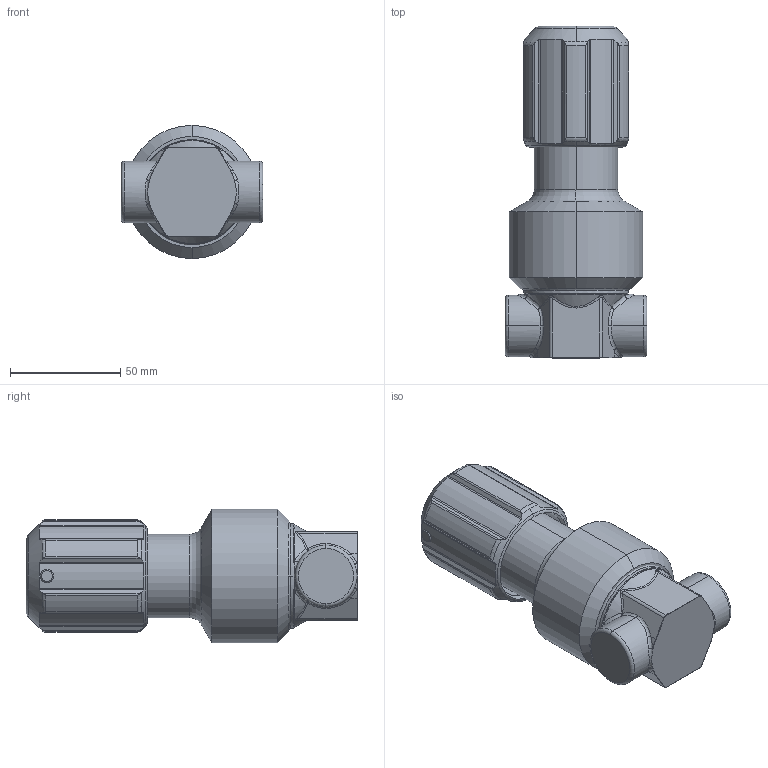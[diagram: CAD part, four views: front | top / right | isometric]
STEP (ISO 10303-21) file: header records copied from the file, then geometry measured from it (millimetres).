
FILE_DESCRIPTION((''),'2;1');
FILE_NAME('234268-EN-E_PRT','2019-12-31T16:07:31',('qusrh3'),(''),'CREO PARAMETRIC BY PTC INC, 2019030','CREO PARAMETRIC BY PTC INC, 2019030','');
FILE_SCHEMA(('CONFIG_CONTROL_DESIGN'));
Length unit declared in the file: inch
Products named in the file (1): 234268-EN-E_PRT
Bounding box: 64.3 x 150.66 x 60.5 mm (x, y, z)
Surface area: 41445.2 mm2 (no closed solid volume)
Topology: 0 solids, 7 shells, 182 faces, 452 edges, 276 vertices
Faces by surface type: cylinder 64, bspline 30, plane 28, torus 28, cone 20, sphere 12
Entity records: 7358 total; most frequent: CARTESIAN_POINT 3372, ORIENTED_EDGE 888, DIRECTION 744, EDGE_CURVE 452, AXIS2_PLACEMENT_3D 321, VERTEX_POINT 276, EDGE_LOOP 182, FACE_OUTER_BOUND 182
